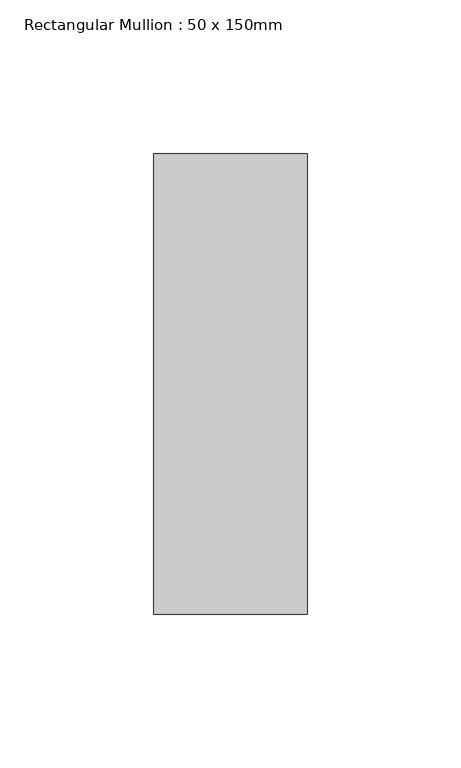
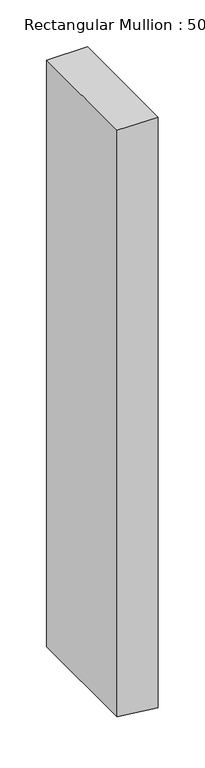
"""IFC4 building model written with IfcOpenShell, lengths in millimetres: member geometry, Rectangular Mullion : 50 x 150mm."""

from ifc_helpers import new_model, si_unit, frame, origin, place, context, project, spatial, polyline, outline, extrude, source, transform, mapped, element, save


def rectangular_mullion_50_x_150mm_ca49ede1(model_context):
    return source(origin(), model_context, "Body", "SweptSolid", [
        extrude(outline(polyline([(0.0, 25.0), (0.0, -25.0), (-761.3632482, -25.0), (-764.8434074, 5.6423937), (-767.0419156, 25.0), (0.0, 25.0)])), frame((0.0, -75.0, 0.0), z_axis=(0.0, 1.0, 0.0), x_axis=(0.0, 0.0, 1.0)), (0.0, 0.0, 1.0), 150.0),
    ])


if __name__ == "__main__":
    model = new_model("IFC4")
    model_context = context("Model", 3, world=origin())
    ifc_project = project(units=[si_unit("LENGTHUNIT", "METRE", prefix="MILLI")], contexts=[model_context])
    site = spatial("IfcSite", under=ifc_project)
    building = spatial("IfcBuilding", under=site)
    placement = place(None, origin())
    rectangular_mullion_50_x_150mm_shape = rectangular_mullion_50_x_150mm_ca49ede1(model_context)
    element("IfcMember", 1, ObjectType="Rectangular Mullion : 50 x 150mm", at=placement, inside=building, context=model_context, shape_type="MappedRepresentation", body=[
        mapped(rectangular_mullion_50_x_150mm_shape, transform((0.0, 0.0, 0.0), x_axis=(1.0, 0.0, 0.0), y_axis=(0.0, 1.0, 0.0), z_axis=(0.0, 0.0, 1.0))),
    ])
    save(model, "model.ifc")
